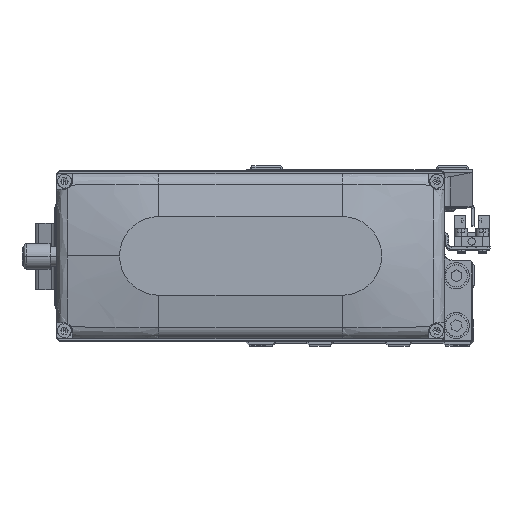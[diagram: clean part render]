
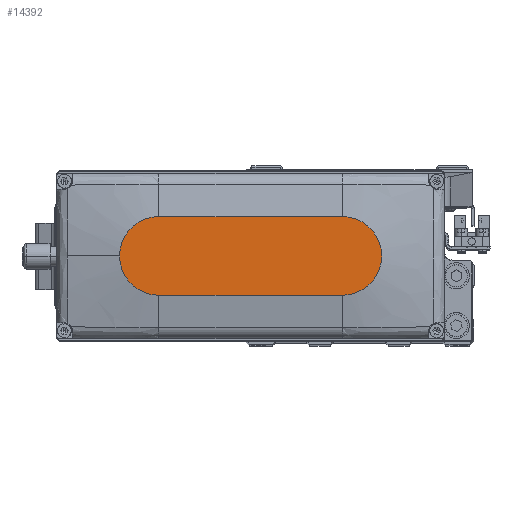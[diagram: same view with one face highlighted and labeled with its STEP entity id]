
A CAD part, top view. The second image highlights one B-rep face of the part: STEP entity #14392.
In plain terms, the highlighted planar face has unit normal (0, 0, 1).
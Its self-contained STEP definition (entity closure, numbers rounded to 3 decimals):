
#555 = VECTOR ( 'NONE', #39909, 1000. ) ;
#1006 = DIRECTION ( 'NONE',  ( 0., 0., 1. ) ) ;
#1384 = DIRECTION ( 'NONE',  ( 1., 0., 0. ) ) ;
#1895 = CARTESIAN_POINT ( 'NONE',  ( -35., -15., 35. ) ) ;
#2438 = CIRCLE ( 'NONE', #28866, 15. ) ;
#5185 = VERTEX_POINT ( 'NONE', #38319 ) ;
#6394 = ORIENTED_EDGE ( 'NONE', *, *, #6895, .T. ) ;
#6895 = EDGE_CURVE ( 'NONE', #21342, #28766, #34346, .T. ) ;
#6999 = DIRECTION ( 'NONE',  ( 1., 0., 0. ) ) ;
#9446 = CARTESIAN_POINT ( 'NONE',  ( 35., 0., 35. ) ) ;
#10571 = PLANE ( 'NONE',  #38575 ) ;
#10975 = EDGE_CURVE ( 'NONE', #28766, #36846, #11062, .T. ) ;
#11062 = LINE ( 'NONE', #25507, #555 ) ;
#11928 = CARTESIAN_POINT ( 'NONE',  ( 35., -15., 35. ) ) ;
#12071 = CIRCLE ( 'NONE', #38489, 15. ) ;
#13950 = AXIS2_PLACEMENT_3D ( 'NONE', #33411, #1006, #15427 ) ;
#14392 = ADVANCED_FACE ( 'NONE', ( #42949 ), #10571, .T. ) ;
#15427 = DIRECTION ( 'NONE',  ( 1., 0., 0. ) ) ;
#16089 = ORIENTED_EDGE ( 'NONE', *, *, #10975, .T. ) ;
#16325 = DIRECTION ( 'NONE',  ( 1., 0., 0. ) ) ;
#19355 = CARTESIAN_POINT ( 'NONE',  ( -35., 0., 35. ) ) ;
#21342 = VERTEX_POINT ( 'NONE', #43224 ) ;
#21509 = EDGE_CURVE ( 'NONE', #36846, #5185, #12071, .T. ) ;
#21602 = ORIENTED_EDGE ( 'NONE', *, *, #21509, .T. ) ;
#23889 = DIRECTION ( 'NONE',  ( 0., 0., 1. ) ) ;
#24100 = EDGE_CURVE ( 'NONE', #33725, #21342, #2438, .T. ) ;
#25010 = CARTESIAN_POINT ( 'NONE',  ( 0., 0., 35. ) ) ;
#25507 = CARTESIAN_POINT ( 'NONE',  ( -35., 15., 35. ) ) ;
#25561 = ORIENTED_EDGE ( 'NONE', *, *, #42840, .T. ) ;
#26586 = EDGE_LOOP ( 'NONE', ( #16089, #21602, #25561, #37795, #6394 ) ) ;
#28766 = VERTEX_POINT ( 'NONE', #40000 ) ;
#28866 = AXIS2_PLACEMENT_3D ( 'NONE', #9446, #23889, #38293 ) ;
#33411 = CARTESIAN_POINT ( 'NONE',  ( 35., 0., 35. ) ) ;
#33725 = VERTEX_POINT ( 'NONE', #11928 ) ;
#33778 = DIRECTION ( 'NONE',  ( 0., 0., 1. ) ) ;
#34297 = LINE ( 'NONE', #1895, #35569 ) ;
#34346 = CIRCLE ( 'NONE', #13950, 15. ) ;
#35569 = VECTOR ( 'NONE', #16325, 1000. ) ;
#36846 = VERTEX_POINT ( 'NONE', #40673 ) ;
#37795 = ORIENTED_EDGE ( 'NONE', *, *, #24100, .T. ) ;
#38293 = DIRECTION ( 'NONE',  ( 1., 0., 0. ) ) ;
#38319 = CARTESIAN_POINT ( 'NONE',  ( -35., -15., 35. ) ) ;
#38489 = AXIS2_PLACEMENT_3D ( 'NONE', #19355, #33778, #1384 ) ;
#38575 = AXIS2_PLACEMENT_3D ( 'NONE', #25010, #39406, #6999 ) ;
#39406 = DIRECTION ( 'NONE',  ( 0., 0., 1. ) ) ;
#39909 = DIRECTION ( 'NONE',  ( -1., 0., 0. ) ) ;
#40000 = CARTESIAN_POINT ( 'NONE',  ( 35., 15., 35. ) ) ;
#40673 = CARTESIAN_POINT ( 'NONE',  ( -35., 15., 35. ) ) ;
#42840 = EDGE_CURVE ( 'NONE', #5185, #33725, #34297, .T. ) ;
#42949 = FACE_OUTER_BOUND ( 'NONE', #26586, .T. ) ;
#43224 = CARTESIAN_POINT ( 'NONE',  ( 50., 0., 35. ) ) ;
